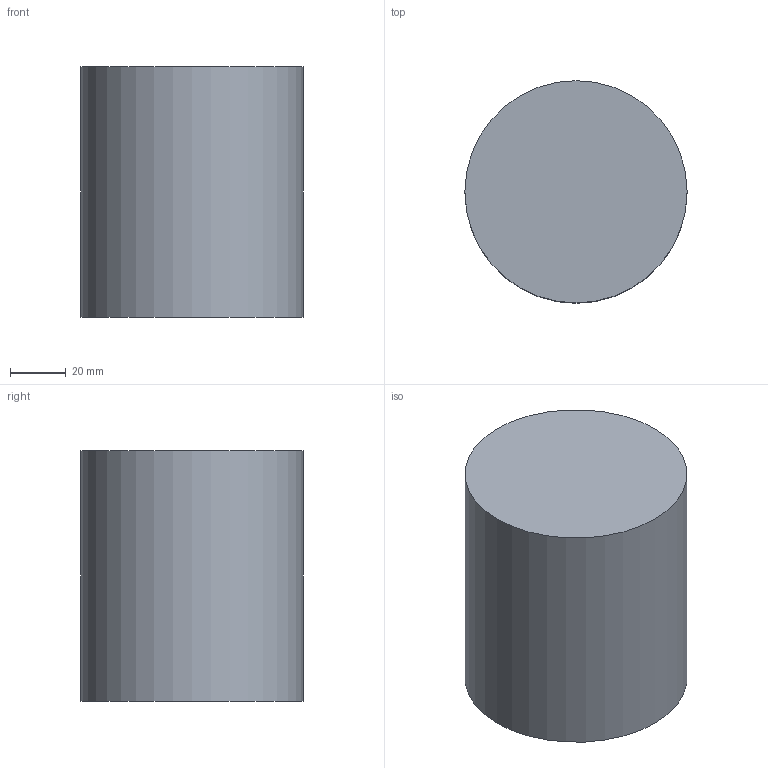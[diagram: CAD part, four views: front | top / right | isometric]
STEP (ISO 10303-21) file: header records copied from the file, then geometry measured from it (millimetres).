
FILE_DESCRIPTION(('Open CASCADE Model'),'2;1');
FILE_NAME('Open CASCADE Shape Model','2009-11-12T13:13:36',('Author'),( 'Open CASCADE'),'Open CASCADE STEP processor 6.3','Open CASCADE 6.3' ,'Unknown');
FILE_SCHEMA(('AUTOMOTIVE_DESIGN_CC2 { 1 2 10303 214 -1 1 5 4 }'));
Length unit declared in the file: millimetre
Products named in the file (1): Open CASCADE STEP translator 6.3 1
Bounding box: 80 x 80 x 90 mm (x, y, z)
Volume: 452389.3 mm3; surface area: 32672.6 mm2
Topology: 1 solids, 1 shells, 3 faces, 3 edges, 2 vertices
Faces by surface type: plane 2, cylinder 1
Full cylindrical faces by diameter (mm): 80 x1
Entity records: 108 total; most frequent: DIRECTION 19, CARTESIAN_POINT 15, AXIS2_PLACEMENT_3D 6, ORIENTED_EDGE 6, PCURVE 6, DEFINITIONAL_REPRESENTATION 6, LINE 5, VECTOR 5
